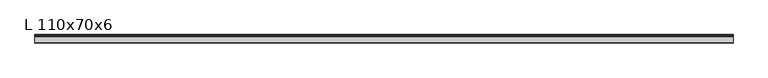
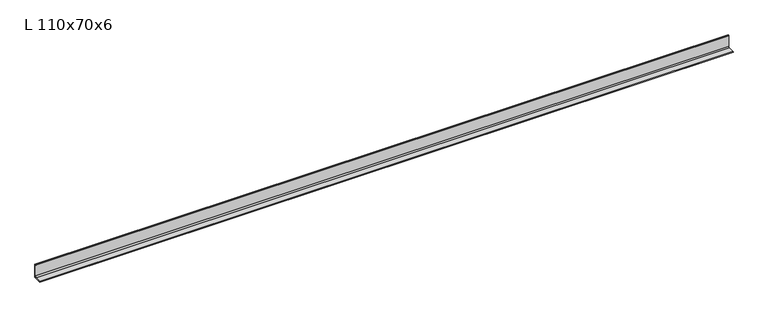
"""IFC4 building model written with IfcOpenShell, lengths in millimetres: beam geometry, Уголок (ГОСТ 8510-86) Балки : L 110x70x6."""

from ifc_helpers import new_model, si_unit, point, frame, frame_2d, origin, place, context, project, spatial, polyline, circle_curve, trimmed, segment, composite_curve, outline, extrude, source, transform, mapped, element, save


def l_110x70x6_c68c683c(model_context):
    return source(origin(), model_context, "Body", "SweptSolid", [
        extrude(outline(composite_curve([segment(polyline([(15.8, -35.5), (-54.2, -35.5), (-54.2, -32.3)]), True, "CONTINUOUS"), segment(trimmed(circle_curve(frame_2d((-50.9, -32.3)), 3.3), [point((-54.2, -32.3))], [point((-50.9, -29.0))], False, "CARTESIAN"), True, "CONTINUOUS"), segment(polyline([(-50.9, -29.0), (-0.7, -29.0)]), True, "CONTINUOUS"), segment(trimmed(circle_curve(frame_2d((-0.7, -19.0)), 10.0), [point((-0.7, -29.0))], [point((9.3, -19.0))], True, "CARTESIAN"), True, "CONTINUOUS"), segment(polyline([(9.3, -19.0), (9.3, 71.2)]), True, "CONTINUOUS"), segment(trimmed(circle_curve(frame_2d((12.6, 71.2)), 3.3), [point((9.3, 71.2))], [point((12.6, 74.5))], False, "CARTESIAN"), True, "CONTINUOUS"), segment(polyline([(12.6, 74.5), (15.8, 74.5), (15.8, -35.5)]), True, "CONTINUOUS")], self_intersect=False)), frame((-2747.5, 0.0, 0.0), z_axis=(1.0, 0.0, 0.0), x_axis=(0.0, 1.0, 0.0)), (0.0, 0.0, 1.0), 5695.0),
    ])


if __name__ == "__main__":
    model = new_model("IFC4")
    model_context = context("Model", 3, world=origin())
    ifc_project = project(units=[si_unit("LENGTHUNIT", "METRE", prefix="MILLI")], contexts=[model_context])
    site = spatial("IfcSite", under=ifc_project)
    building = spatial("IfcBuilding", under=site)
    placement = place(None, origin())
    l_110x70x6_shape = l_110x70x6_c68c683c(model_context)
    element("IfcBeam", 1, ObjectType="Уголок (ГОСТ 8510-86) Балки : L 110x70x6", at=placement, inside=building, context=model_context, shape_type="MappedRepresentation", body=[
        mapped(l_110x70x6_shape, transform((0.0, 0.0, 0.0), x_axis=(1.0, 0.0, 0.0), y_axis=(0.0, 1.0, 0.0), z_axis=(0.0, 0.0, 1.0))),
    ])
    save(model, "model.ifc")
